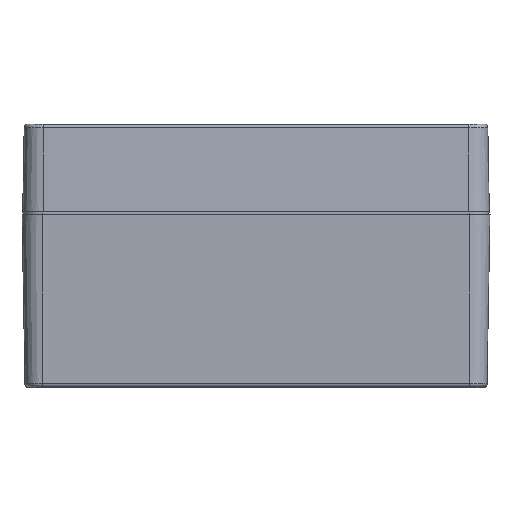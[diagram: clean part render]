
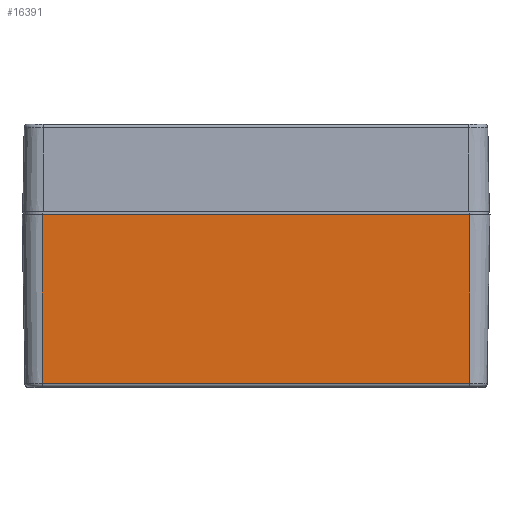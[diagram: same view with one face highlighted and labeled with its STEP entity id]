
A CAD part, top view. The second image highlights one B-rep face of the part: STEP entity #16391.
In plain terms, the highlighted planar face has unit normal (0, -0.018, 1).
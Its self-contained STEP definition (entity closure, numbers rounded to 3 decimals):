
#1640 = EDGE_CURVE ( 'NONE', #25825, #2381, #14674, .T. ) ;
#2381 = VERTEX_POINT ( 'NONE', #10460 ) ;
#3706 = CARTESIAN_POINT ( 'NONE',  ( 73.2, -58.872, 79.172 ) ) ;
#7417 = VERTEX_POINT ( 'NONE', #45404 ) ;
#7571 = LINE ( 'NONE', #3706, #9482 ) ;
#8542 = VERTEX_POINT ( 'NONE', #43362 ) ;
#9028 = EDGE_CURVE ( 'NONE', #7417, #2381, #18492, .T. ) ;
#9482 = VECTOR ( 'NONE', #11673, 1000. ) ;
#10460 = CARTESIAN_POINT ( 'NONE',  ( -73.2, -1., 80.183 ) ) ;
#11673 = DIRECTION ( 'NONE',  ( 1., 0., 0. ) ) ;
#12333 = CARTESIAN_POINT ( 'NONE',  ( 73.2, 0., 80.2 ) ) ;
#13980 = EDGE_CURVE ( 'NONE', #25825, #8542, #7571, .T. ) ;
#14095 = AXIS2_PLACEMENT_3D ( 'NONE', #12333, #19129, #15482 ) ;
#14674 = LINE ( 'NONE', #31963, #34344 ) ;
#15482 = DIRECTION ( 'NONE',  ( 0., -1., -0.017 ) ) ;
#16391 = ADVANCED_FACE ( 'NONE', ( #27373 ), #37560, .T. ) ;
#16459 = LINE ( 'NONE', #38289, #22679 ) ;
#17033 = ORIENTED_EDGE ( 'NONE', *, *, #9028, .T. ) ;
#17237 = VECTOR ( 'NONE', #29627, 1000. ) ;
#17350 = EDGE_CURVE ( 'NONE', #8542, #7417, #16459, .T. ) ;
#18492 = LINE ( 'NONE', #22839, #17237 ) ;
#19129 = DIRECTION ( 'NONE',  ( 0., -0.017, 1. ) ) ;
#22679 = VECTOR ( 'NONE', #38524, 1000. ) ;
#22839 = CARTESIAN_POINT ( 'NONE',  ( 73.2, -1., 80.183 ) ) ;
#25825 = VERTEX_POINT ( 'NONE', #40176 ) ;
#27373 = FACE_OUTER_BOUND ( 'NONE', #32070, .T. ) ;
#29627 = DIRECTION ( 'NONE',  ( -1., 0., 0. ) ) ;
#30845 = ORIENTED_EDGE ( 'NONE', *, *, #1640, .F. ) ;
#31963 = CARTESIAN_POINT ( 'NONE',  ( -73.2, 0., 80.2 ) ) ;
#32070 = EDGE_LOOP ( 'NONE', ( #47320, #17033, #30845, #42142 ) ) ;
#33340 = DIRECTION ( 'NONE',  ( 0., 1., 0.017 ) ) ;
#34344 = VECTOR ( 'NONE', #33340, 1000. ) ;
#37560 = PLANE ( 'NONE',  #14095 ) ;
#38289 = CARTESIAN_POINT ( 'NONE',  ( 73.2, 0., 80.2 ) ) ;
#38524 = DIRECTION ( 'NONE',  ( 0., 1., 0.017 ) ) ;
#40176 = CARTESIAN_POINT ( 'NONE',  ( -73.2, -58.872, 79.172 ) ) ;
#42142 = ORIENTED_EDGE ( 'NONE', *, *, #13980, .T. ) ;
#43362 = CARTESIAN_POINT ( 'NONE',  ( 73.2, -58.872, 79.172 ) ) ;
#45404 = CARTESIAN_POINT ( 'NONE',  ( 73.2, -1., 80.183 ) ) ;
#47320 = ORIENTED_EDGE ( 'NONE', *, *, #17350, .T. ) ;
